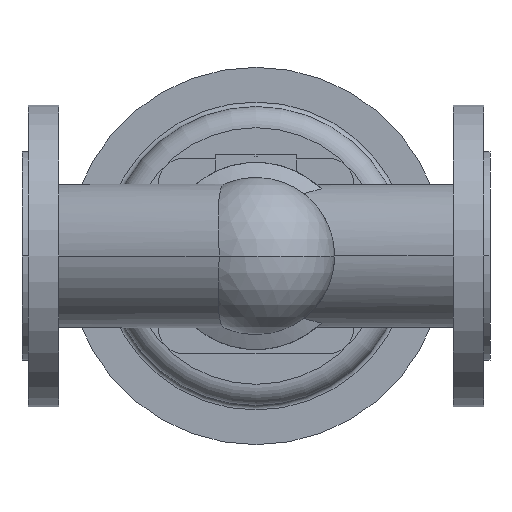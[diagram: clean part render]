
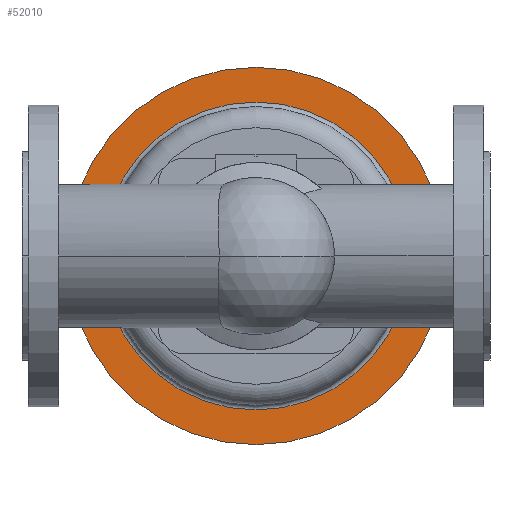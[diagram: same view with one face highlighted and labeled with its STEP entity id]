
A CAD part, front view. The second image highlights one B-rep face of the part: STEP entity #52010.
In plain terms, the highlighted planar face has unit normal (0, -1, 0).
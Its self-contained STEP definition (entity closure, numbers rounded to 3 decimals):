
#38120=CARTESIAN_POINT('',(280.,424.5,0.));
#38130=VERTEX_POINT('',#38120);
#38160=CARTESIAN_POINT('',(155.,424.5,0.));
#38170=DIRECTION('',(0.,1.,0.));
#38180=DIRECTION('',(1.,0.,0.));
#38190=AXIS2_PLACEMENT_3D('',#38160,#38170,#38180);
#38200=CIRCLE('',#38190,125.);
#38210=CARTESIAN_POINT('',(30.,424.5,0.));
#38220=VERTEX_POINT('',#38210);
#38230=EDGE_CURVE('',#38220,#38130,#38200,.T.);
#38480=CARTESIAN_POINT('',(155.,424.5,0.));
#38490=DIRECTION('',(0.,1.,0.));
#38500=DIRECTION('',(1.,0.,0.));
#38510=AXIS2_PLACEMENT_3D('',#38480,#38490,#38500);
#38520=CIRCLE('',#38510,102.);
#38530=CARTESIAN_POINT('',(155.,424.5,-102.));
#38540=VERTEX_POINT('',#38530);
#38550=CARTESIAN_POINT('',(53.,424.5,0.));
#38560=VERTEX_POINT('',#38550);
#38570=EDGE_CURVE('',#38540,#38560,#38520,.T.);
#38820=CARTESIAN_POINT('',(257.,424.5,0.));
#38830=VERTEX_POINT('',#38820);
#38860=EDGE_CURVE('',#38830,#38540,#38520,.T.);
#51850=CARTESIAN_POINT('',(268.5,424.5,0.));
#51860=DIRECTION('',(0.,-1.,0.));
#51870=DIRECTION('',(-1.,0.,0.));
#51880=AXIS2_PLACEMENT_3D('',#51850,#51860,#51870);
#51890=PLANE('',#51880);
#51900=EDGE_CURVE('',#38130,#38220,#38200,.T.);
#51910=ORIENTED_EDGE('',*,*,#51900,.F.);
#51920=ORIENTED_EDGE('',*,*,#38230,.F.);
#51930=EDGE_LOOP('',(#51920,#51910));
#51940=FACE_OUTER_BOUND('',#51930,.T.);
#51950=EDGE_CURVE('',#38560,#38830,#38520,.T.);
#51960=ORIENTED_EDGE('',*,*,#51950,.T.);
#51970=ORIENTED_EDGE('',*,*,#38570,.T.);
#51980=ORIENTED_EDGE('',*,*,#38860,.T.);
#51990=EDGE_LOOP('',(#51980,#51970,#51960));
#52000=FACE_BOUND('',#51990,.T.);
#52010=ADVANCED_FACE('',(#51940,#52000),#51890,.T.);
